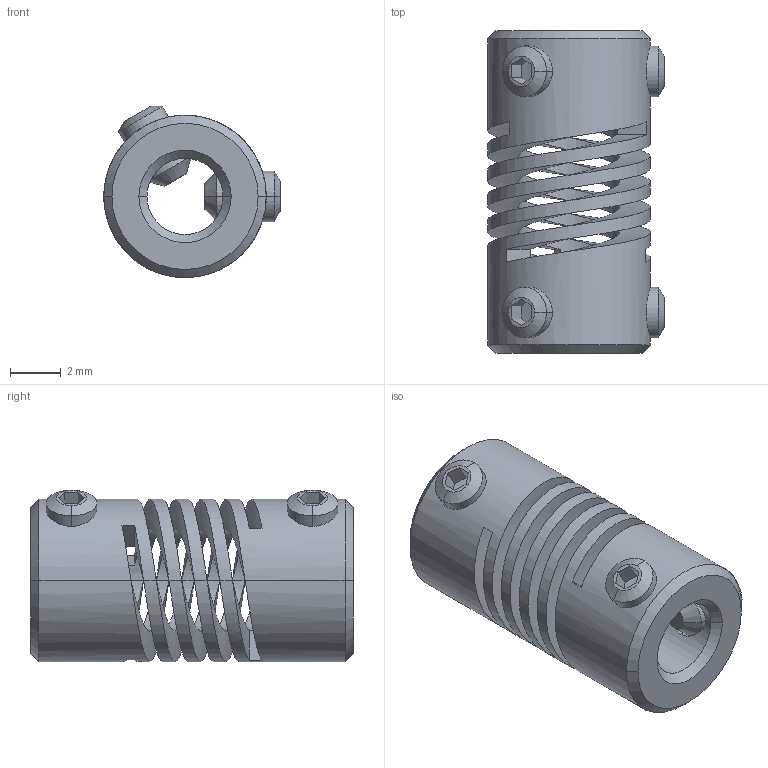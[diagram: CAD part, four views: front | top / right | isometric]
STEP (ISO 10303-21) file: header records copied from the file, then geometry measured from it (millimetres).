
FILE_DESCRIPTION((''),'2;1');
FILE_NAME('724_06_ASM','2006-12-05T',('Gary Melling'),(''),'PRO/ENGINEER BY PARAMETRIC TECHNOLOGY CORPORATION, 2006240','PRO/ENGINEER BY PARAMETRIC TECHNOLOGY CORPORATION, 2006240','');
FILE_SCHEMA(('CONFIG_CONTROL_DESIGN'));
Length unit declared in the file: millimetre
Products named in the file (3): 724_6; GS_2; 724_06_ASM
Assembly tree (5 placements, depth 2):
  724_06_ASM
    724_6
    GS_2  x4
Bounding box: 6.95 x 12.7 x 6.75 mm (x, y, z)
Volume: 241.8 mm3; surface area: 683.2 mm2
Topology: 5 solids, 5 shells, 114 faces, 300 edges, 192 vertices
Faces by surface type: plane 46, cylinder 38, cone 24, bspline 6
Entity records: 4275 total; most frequent: CARTESIAN_POINT 2440, ORIENTED_EDGE 408, DIRECTION 302, EDGE_CURVE 204, VERTEX_POINT 132, AXIS2_PLACEMENT_3D 103, VECTOR 96, LINE 96
